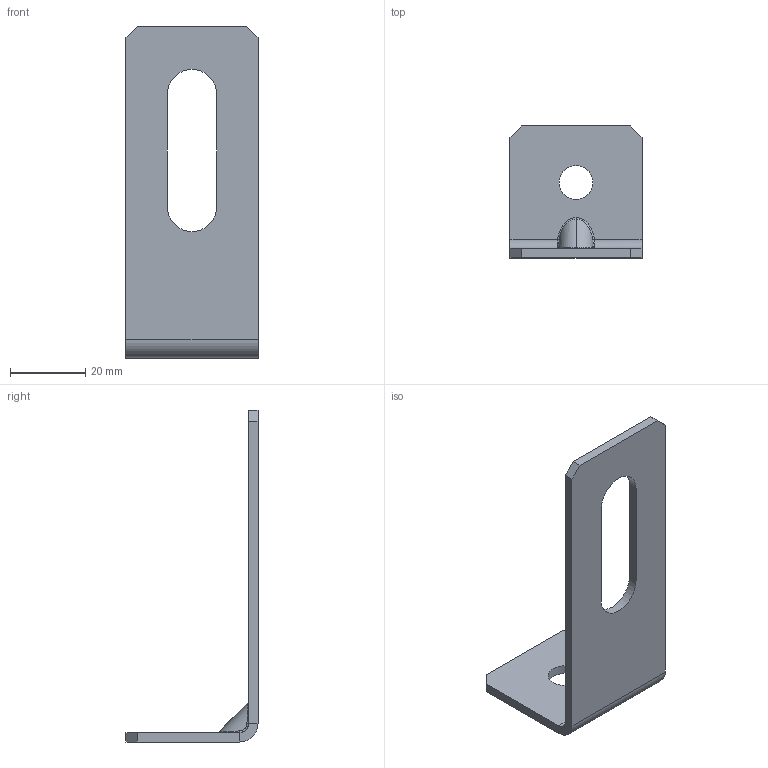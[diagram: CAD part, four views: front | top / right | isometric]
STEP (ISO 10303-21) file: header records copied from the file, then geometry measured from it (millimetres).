
FILE_DESCRIPTION (( 'STEP AP214' ), '1' );
FILE_NAME ('WB 12 Ñêîáà ìîíòàæíàÿ.STEP', '2020-03-18T07:49:42', ( '' ), ( '' ), 'SwSTEP 2.0', 'SolidWorks 2018', '' );
FILE_SCHEMA (( 'AUTOMOTIVE_DESIGN' ));
Length unit declared in the file: millimetre
Products named in the file (1): WB 12 Ñêîáà ìîíòàæíàÿ
Bounding box: 35 x 35 x 88 mm (x, y, z)
Volume: 9092.7 mm3; surface area: 8191.8 mm2
Topology: 1 solids, 1 shells, 38 faces, 94 edges, 58 vertices
Faces by surface type: plane 18, cylinder 10, bspline 10
Entity records: 1336 total; most frequent: CARTESIAN_POINT 463, ORIENTED_EDGE 188, DIRECTION 156, EDGE_CURVE 94, VERTEX_POINT 58, AXIS2_PLACEMENT_3D 53, LINE 50, VECTOR 50
